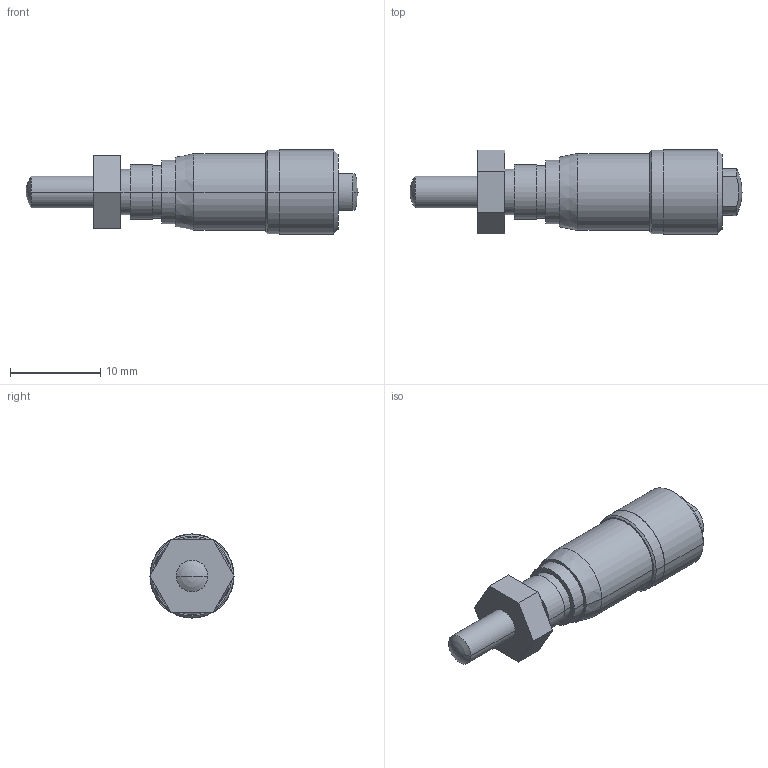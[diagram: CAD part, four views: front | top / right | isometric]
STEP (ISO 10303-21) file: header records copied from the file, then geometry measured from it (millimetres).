
FILE_DESCRIPTION(('Creo Elements/Direct Modeling STEP Export'),'2;1');
FILE_NAME('148-243-10_MHT4-6_5FPA.stp','2022-09-22T15:55:08',(''),(''),'Creo Elements/Direct Modeling STEP processor for AP214 (Solid Model)','Creo Elements/Direct Modeling 18.1H 24-Oct-2015 (C) Parametric Technology GmbH','');
FILE_SCHEMA(('AUTOMOTIVE_DESIGN { 1 0 10303 214 1 1 1 1 }'));
Length unit declared in the file: millimetre
Products named in the file (1): 148-243-10_MHT4-6_5FPA_PRT.prt
Bounding box: 36.7 x 9.3 x 9.3 mm (x, y, z)
Volume: 1540.1 mm3; surface area: 989.1 mm2
Topology: 1 solids, 1 shells, 45 faces, 100 edges, 62 vertices
Faces by surface type: cylinder 18, plane 17, cone 6, sphere 4
Entity records: 1139 total; most frequent: DIRECTION 192, ORIENTED_EDGE 192, CARTESIAN_POINT 181, EDGE_CURVE 96, AXIS2_PLACEMENT_3D 73, VERTEX_POINT 62, EDGE_LOOP 54, VECTOR 46
